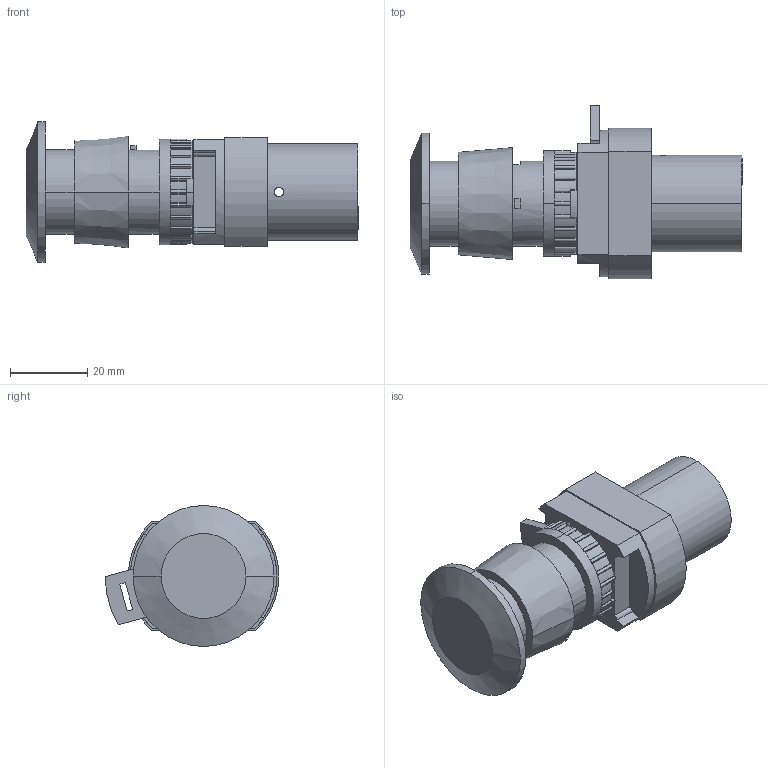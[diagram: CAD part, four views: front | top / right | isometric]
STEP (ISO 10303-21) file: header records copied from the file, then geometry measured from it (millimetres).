
FILE_DESCRIPTION (( 'STEP AP203' ), '1' );
FILE_NAME ('18-T-23-012_T-30-310-Airtec.step', '2006-10-31T13:14:08', ( 'Gustaf Hederström' ), ( 'Cevican AB' ), 'SwSTEP 2.0', 'SolidWorks 2002308', '' );
FILE_SCHEMA (( 'CONFIG_CONTROL_DESIGN' ));
Length unit declared in the file: millimetre
Products named in the file (3): 18-T-23-012_T-30-310-Airtec; 18-T-23-012-Airtec; T-30-310-Airtec
Assembly tree (2 placements, depth 2):
  18-T-23-012_T-30-310-Airtec
    T-30-310-Airtec
    18-T-23-012-Airtec
Bounding box: 86 x 45 x 36.5 mm (x, y, z)
Volume: 50195 mm3; surface area: 14709.3 mm2
Topology: 2 solids, 2 shells, 300 faces, 819 edges, 532 vertices
Faces by surface type: cylinder 160, plane 128, cone 10, bspline 2
Entity records: 9994 total; most frequent: DIRECTION 1817, CARTESIAN_POINT 1748, ORIENTED_EDGE 1626, EDGE_CURVE 813, AXIS2_PLACEMENT_3D 705, VERTEX_POINT 532, LINE 407, VECTOR 407
